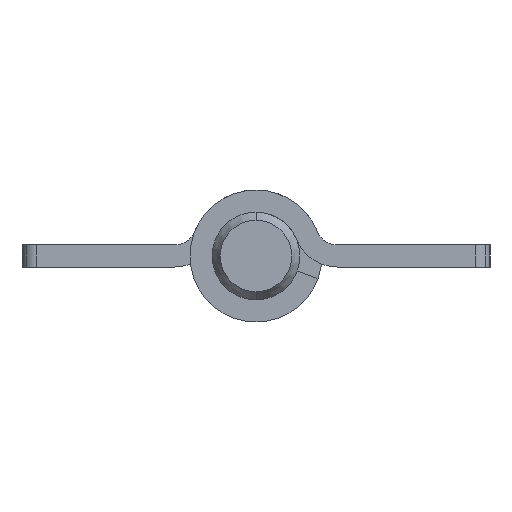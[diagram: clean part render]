
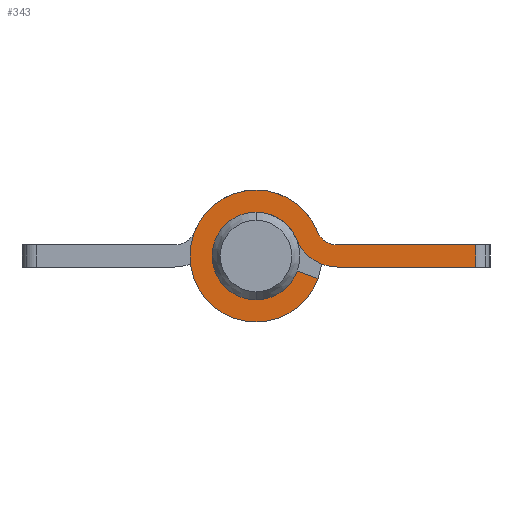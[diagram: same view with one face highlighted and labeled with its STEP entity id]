
A CAD part, left-side view. The second image highlights one B-rep face of the part: STEP entity #343.
In plain terms, the highlighted planar face has unit normal (-1, 0, 0).
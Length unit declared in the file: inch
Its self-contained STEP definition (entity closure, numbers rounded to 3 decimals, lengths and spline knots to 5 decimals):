
#343=ADVANCED_FACE('',(#709),#710,.F.);
#709=FACE_OUTER_BOUND('',#1124,.T.);
#710=PLANE('',#1125);
#1124=EDGE_LOOP('',(#1956,#1957,#1958,#1959,#1960,#1961,#1962,#1963,#1964,#1965,#1966,#1967));
#1125=AXIS2_PLACEMENT_3D('',#1968,#1969,#1970);
#1956=ORIENTED_EDGE('',*,*,#2583,.T.);
#1957=ORIENTED_EDGE('',*,*,#2482,.T.);
#1958=ORIENTED_EDGE('',*,*,#2571,.T.);
#1959=ORIENTED_EDGE('',*,*,#2717,.T.);
#1960=ORIENTED_EDGE('',*,*,#2394,.T.);
#1961=ORIENTED_EDGE('',*,*,#2609,.T.);
#1962=ORIENTED_EDGE('',*,*,#2718,.T.);
#1963=ORIENTED_EDGE('',*,*,#2461,.T.);
#1964=ORIENTED_EDGE('',*,*,#2719,.T.);
#1965=ORIENTED_EDGE('',*,*,#2569,.T.);
#1966=ORIENTED_EDGE('',*,*,#2373,.T.);
#1967=ORIENTED_EDGE('',*,*,#2681,.T.);
#1968=CARTESIAN_POINT('',(-1.87157,-6.12007,-0.04738));
#1969=DIRECTION('',(1.0,0.,0.));
#1970=DIRECTION('',(0.,0.,-1.0));
#2373=EDGE_CURVE('',#2811,#2812,#2813,.T.);
#2394=EDGE_CURVE('',#2850,#2848,#2851,.T.);
#2461=EDGE_CURVE('',#2967,#2964,#2968,.T.);
#2482=EDGE_CURVE('',#3005,#3003,#3006,.T.);
#2569=EDGE_CURVE('',#3135,#2811,#3137,.T.);
#2571=EDGE_CURVE('',#3003,#3139,#3140,.T.);
#2583=EDGE_CURVE('',#3157,#3005,#3158,.T.);
#2609=EDGE_CURVE('',#2848,#3194,#3196,.T.);
#2681=EDGE_CURVE('',#2812,#3157,#3303,.T.);
#2717=EDGE_CURVE('',#3139,#2850,#3353,.T.);
#2718=EDGE_CURVE('',#3194,#2967,#3354,.T.);
#2719=EDGE_CURVE('',#2964,#3135,#3355,.T.);
#2811=VERTEX_POINT('',#3455);
#2812=VERTEX_POINT('',#3456);
#2813=CIRCLE('',#3457,0.09449);
#2848=VERTEX_POINT('',#3502);
#2850=VERTEX_POINT('',#3505);
#2851=CIRCLE('',#3506,0.14099);
#2964=VERTEX_POINT('',#3646);
#2967=VERTEX_POINT('',#3650);
#2968=CIRCLE('',#3651,0.09375);
#3003=VERTEX_POINT('',#3693);
#3005=VERTEX_POINT('',#3696);
#3006=LINE('',#3697,#3698);
#3135=VERTEX_POINT('',#3858);
#3137=CIRCLE('',#3861,0.09375);
#3139=VERTEX_POINT('',#3863);
#3140=CIRCLE('',#3864,0.04724);
#3157=VERTEX_POINT('',#3888);
#3158=LINE('',#3889,#3890);
#3194=VERTEX_POINT('',#3935);
#3196=CIRCLE('',#3938,0.14099);
#3303=LINE('',#4069,#4070);
#3353=CIRCLE('',#4130,0.14099);
#3354=LINE('',#4131,#4132);
#3355=CIRCLE('',#4133,0.09375);
#3455=CARTESIAN_POINT('',(-1.87157,-6.08685,-0.01195));
#3456=CARTESIAN_POINT('',(-1.87157,-6.17439,-0.07087));
#3457=AXIS2_PLACEMENT_3D('',#4243,#4244,#4245);
#3502=CARTESIAN_POINT('',(-1.87157,-6.,-0.18824));
#3505=CARTESIAN_POINT('',(-1.87157,-6.,0.09375));
#3506=AXIS2_PLACEMENT_3D('',#4272,#4273,#4274);
#3646=CARTESIAN_POINT('',(-1.87157,-6.,-0.14099));
#3650=CARTESIAN_POINT('',(-1.87157,-6.0881,-0.07931));
#3651=AXIS2_PLACEMENT_3D('',#4381,#4382,#4383);
#3693=CARTESIAN_POINT('',(-1.87157,-6.17439,-0.02362));
#3696=CARTESIAN_POINT('',(-1.87157,-6.47,-0.02362));
#3697=CARTESIAN_POINT('',(-1.87157,-6.17439,-0.02362));
#3698=VECTOR('',#4419,0.3937);
#3858=CARTESIAN_POINT('',(-1.87157,-6.,0.04651));
#3861=AXIS2_PLACEMENT_3D('',#4551,#4552,#4553);
#3863=CARTESIAN_POINT('',(-1.87157,-6.13062,0.00584));
#3864=AXIS2_PLACEMENT_3D('',#4554,#4555,#4556);
#3888=CARTESIAN_POINT('',(-1.87157,-6.47,-0.07087));
#3889=CARTESIAN_POINT('',(-1.87157,-6.47,-0.05912));
#3890=VECTOR('',#4567,0.3937);
#3935=CARTESIAN_POINT('',(-1.87157,-6.13249,-0.09547));
#3938=AXIS2_PLACEMENT_3D('',#4605,#4606,#4607);
#4069=CARTESIAN_POINT('',(-1.87157,-6.5,-0.07087));
#4070=VECTOR('',#4722,0.3937);
#4130=AXIS2_PLACEMENT_3D('',#4781,#4782,#4783);
#4131=CARTESIAN_POINT('',(-1.87157,-6.0881,-0.07931));
#4132=VECTOR('',#4784,0.3937);
#4133=AXIS2_PLACEMENT_3D('',#4785,#4786,#4787);
#4243=CARTESIAN_POINT('',(-1.87157,-6.17439,0.02362));
#4244=DIRECTION('',(-1.0,0.,0.));
#4245=DIRECTION('',(0.,0.,-1.0));
#4272=CARTESIAN_POINT('',(-1.87157,-6.,-0.04724));
#4273=DIRECTION('',(-1.0,0.,0.));
#4274=DIRECTION('',(0.,0.,-1.0));
#4381=CARTESIAN_POINT('',(-1.87157,-6.,-0.04724));
#4382=DIRECTION('',(1.0,0.,0.));
#4383=DIRECTION('',(0.,0.,1.0));
#4419=DIRECTION('',(0.,1.0,0.));
#4551=CARTESIAN_POINT('',(-1.87157,-6.,-0.04724));
#4552=DIRECTION('',(1.0,0.,0.));
#4553=DIRECTION('',(0.,0.,1.0));
#4554=CARTESIAN_POINT('',(-1.87157,-6.17439,0.02362));
#4555=DIRECTION('',(1.0,0.,0.));
#4556=DIRECTION('',(0.,0.,1.0));
#4567=DIRECTION('',(0.,0.,1.0));
#4605=CARTESIAN_POINT('',(-1.87157,-6.,-0.04724));
#4606=DIRECTION('',(-1.0,0.,0.));
#4607=DIRECTION('',(0.,0.,-1.0));
#4722=DIRECTION('',(0.,-1.0,0.));
#4781=CARTESIAN_POINT('',(-1.87157,-6.,-0.04724));
#4782=DIRECTION('',(-1.0,0.,0.));
#4783=DIRECTION('',(0.,0.,-1.0));
#4784=DIRECTION('',(0.,0.94,0.342));
#4785=CARTESIAN_POINT('',(-1.87157,-6.,-0.04724));
#4786=DIRECTION('',(1.0,0.,0.));
#4787=DIRECTION('',(0.,0.,1.0));
